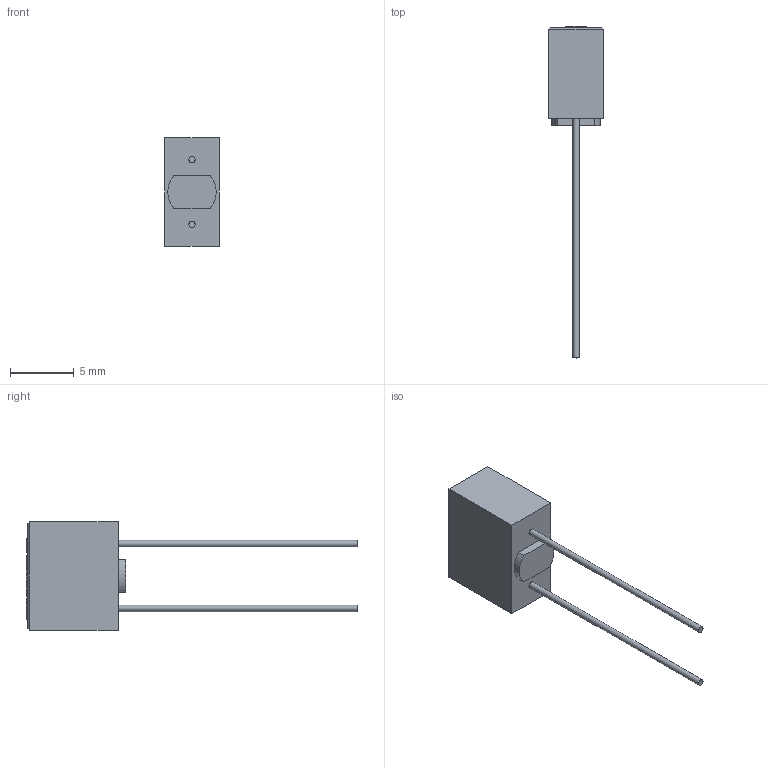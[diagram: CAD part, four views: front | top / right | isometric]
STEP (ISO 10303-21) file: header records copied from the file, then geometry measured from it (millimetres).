
FILE_DESCRIPTION(/* description */ (''),/* implementation_level */ '2;1');
FILE_NAME(/* name */ 'C:\Users\Hani\Desktop\work\TMR-R-E\TMR-R-E.stp',/* time_stamp */ '2022-01-30T11:24:02-08:00',/* author */ ('Hani'),/* organization */ (''),/* preprocessor_version */ 'ST-DEVELOPER v17',/* originating_system */ 'Autodesk Inventor 2019',/* authorisation */ '');
FILE_SCHEMA (('AUTOMOTIVE_DESIGN { 1 0 10303 214 3 1 1 }'));
Length unit declared in the file: inch
Products named in the file (1): TMR-R-E
Bounding box: 4.3 x 26.03 x 8.5 mm (x, y, z)
Volume: 272.4 mm3; surface area: 323.7 mm2
Topology: 1 solids, 1 shells, 155 faces, 410 edges, 272 vertices
Faces by surface type: plane 84, bspline 67, cylinder 4
Full cylindrical faces by diameter (mm): 0.5 x2
Entity records: 5384 total; most frequent: CARTESIAN_POINT 1909, ORIENTED_EDGE 820, DIRECTION 462, EDGE_CURVE 410, VERTEX_POINT 272, LINE 268, VECTOR 268, EDGE_LOOP 170
